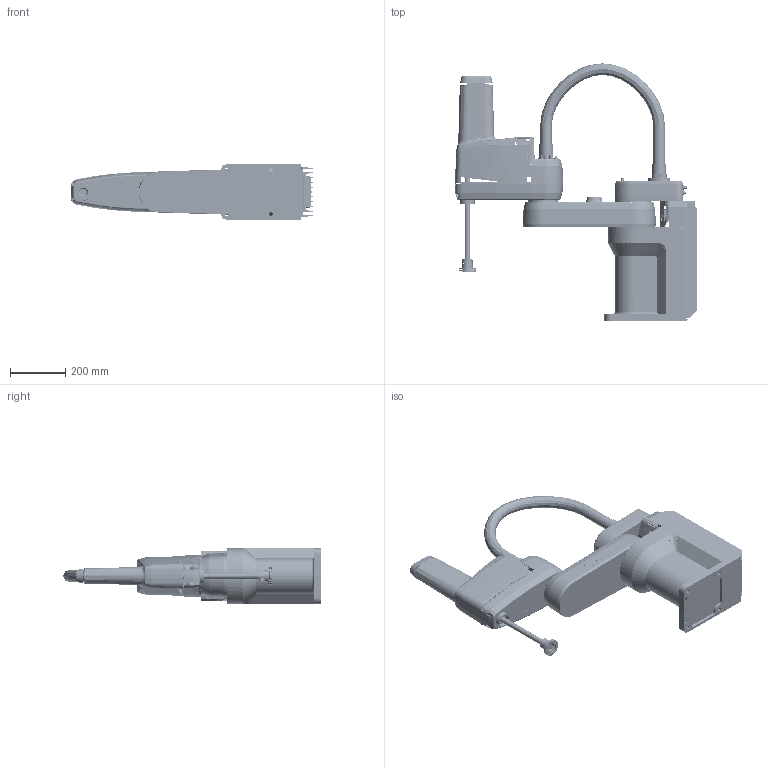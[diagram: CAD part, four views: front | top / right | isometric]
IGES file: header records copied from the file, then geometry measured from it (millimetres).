
Start section: SolidWorks IGES file using analytic representation for surfaces
Global section: file name: C:\temp\Cobra x 600 IGES\COBRA 600 CAD MODEL.IGS; native system: SolidWorks 2006 by SolidWorks Corporation; preprocessor: SolidWorks 2006 by SolidWorks Corporation; author: rodneyl; date: 071030.180058; units: millimetre
Bounding box: 879.89 x 933.39 x 200 mm (x, y, z)
Volume: 1398576.4 mm3; surface area: 2091639.1 mm2
Topology: 4 solids, 4 shells, 2217 faces, 39866 edges, 39774 vertices
Faces by surface type: bspline 1131, revolution 1014, plane 72
